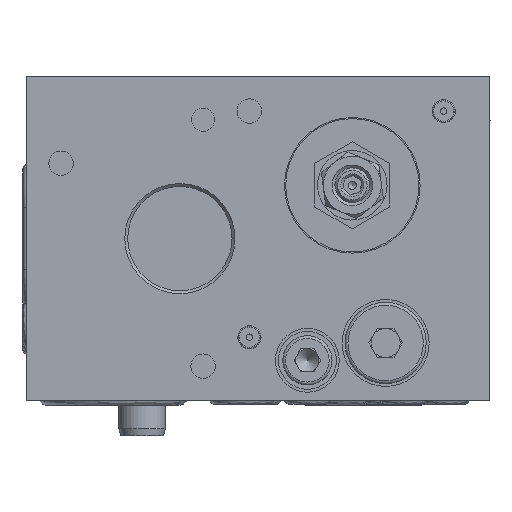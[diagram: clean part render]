
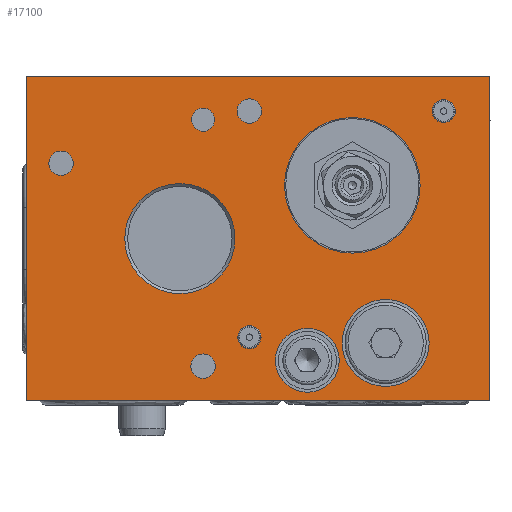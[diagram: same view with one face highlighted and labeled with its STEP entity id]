
A CAD part, left-side view. The second image highlights one B-rep face of the part: STEP entity #17100.
In plain terms, the highlighted planar face has unit normal (-1, 0, 0).
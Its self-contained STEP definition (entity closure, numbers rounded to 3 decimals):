
#145 = VECTOR ( 'NONE', #21074, 1000. ) ;
#528 = CARTESIAN_POINT ( 'NONE',  ( 0., 0., 0. ) ) ;
#545 = CARTESIAN_POINT ( 'NONE',  ( 0., -62., 10. ) ) ;
#640 = LINE ( 'NONE', #528, #12795 ) ;
#978 = CARTESIAN_POINT ( 'NONE',  ( 0., -80., 56. ) ) ;
#1106 = CARTESIAN_POINT ( 'NONE',  ( 0., 0., 56. ) ) ;
#1287 = CARTESIAN_POINT ( 'NONE',  ( 0., -48.5, 12.5 ) ) ;
#1330 = DIRECTION ( 'NONE',  ( 0., 0., -1. ) ) ;
#1402 = FACE_BOUND ( 'NONE', #12193, .T. ) ;
#1601 = ORIENTED_EDGE ( 'NONE', *, *, #6001, .F. ) ;
#1817 = DIRECTION ( 'NONE',  ( 0., 0., 1. ) ) ;
#1970 = DIRECTION ( 'NONE',  ( 1., 0., 0. ) ) ;
#2127 = VERTEX_POINT ( 'NONE', #10689 ) ;
#2154 = DIRECTION ( 'NONE',  ( 0., 0., 1. ) ) ;
#2182 = DIRECTION ( 'NONE',  ( 1., 0., 0. ) ) ;
#2485 = ORIENTED_EDGE ( 'NONE', *, *, #10477, .F. ) ;
#2597 = CARTESIAN_POINT ( 'NONE',  ( 0., 0., 56. ) ) ;
#2634 = ORIENTED_EDGE ( 'NONE', *, *, #6351, .F. ) ;
#2785 = CARTESIAN_POINT ( 'NONE',  ( 0., -36., 28. ) ) ;
#2894 = AXIS2_PLACEMENT_3D ( 'NONE', #10479, #17168, #2154 ) ;
#2997 = CARTESIAN_POINT ( 'NONE',  ( 0., 0., 56. ) ) ;
#3196 = DIRECTION ( 'NONE',  ( 0., 0., 1. ) ) ;
#3381 = EDGE_LOOP ( 'NONE', ( #5102 ) ) ;
#3425 = EDGE_LOOP ( 'NONE', ( #5179, #1601, #2485, #4714 ) ) ;
#3496 = FACE_BOUND ( 'NONE', #10504, .T. ) ;
#3764 = DIRECTION ( 'NONE',  ( -1., 0., 0. ) ) ;
#3921 = EDGE_CURVE ( 'NONE', #10235, #10235, #17332, .T. ) ;
#4251 = VERTEX_POINT ( 'NONE', #21041 ) ;
#4284 = DIRECTION ( 'NONE',  ( 0., 0., 1. ) ) ;
#4314 = LINE ( 'NONE', #1106, #9926 ) ;
#4444 = VERTEX_POINT ( 'NONE', #2785 ) ;
#4475 = VERTEX_POINT ( 'NONE', #19716 ) ;
#4560 = CARTESIAN_POINT ( 'NONE',  ( 0., -80., 56. ) ) ;
#4595 = EDGE_CURVE ( 'NONE', #9469, #9469, #9305, .T. ) ;
#4714 = ORIENTED_EDGE ( 'NONE', *, *, #15390, .T. ) ;
#4970 = VERTEX_POINT ( 'NONE', #14801 ) ;
#5102 = ORIENTED_EDGE ( 'NONE', *, *, #4595, .F. ) ;
#5170 = DIRECTION ( 'NONE',  ( 0., 0., 1. ) ) ;
#5179 = ORIENTED_EDGE ( 'NONE', *, *, #5889, .T. ) ;
#5463 = CARTESIAN_POINT ( 'NONE',  ( 0., -30.5, 48.5 ) ) ;
#5696 = ORIENTED_EDGE ( 'NONE', *, *, #20600, .F. ) ;
#5768 = VERTEX_POINT ( 'NONE', #5873 ) ;
#5790 = CIRCLE ( 'NONE', #20539, 2. ) ;
#5873 = CARTESIAN_POINT ( 'NONE',  ( 0., -6., 43.1 ) ) ;
#5889 = EDGE_CURVE ( 'NONE', #2127, #19149, #640, .T. ) ;
#5996 = AXIS2_PLACEMENT_3D ( 'NONE', #13997, #2182, #12258 ) ;
#6001 = EDGE_CURVE ( 'NONE', #17620, #19149, #21504, .T. ) ;
#6215 = VERTEX_POINT ( 'NONE', #19628 ) ;
#6351 = EDGE_CURVE ( 'NONE', #4444, #4444, #13164, .T. ) ;
#6683 = EDGE_CURVE ( 'NONE', #4970, #4970, #15696, .T. ) ;
#6927 = VECTOR ( 'NONE', #1330, 1000. ) ;
#7012 = CARTESIAN_POINT ( 'NONE',  ( 0., -38.5, 50. ) ) ;
#7206 = FACE_BOUND ( 'NONE', #3381, .T. ) ;
#7318 = FACE_BOUND ( 'NONE', #7618, .T. ) ;
#7336 = DIRECTION ( 'NONE',  ( 0., -1., 0. ) ) ;
#7357 = DIRECTION ( 'NONE',  ( 0., 0., 1. ) ) ;
#7617 = CARTESIAN_POINT ( 'NONE',  ( 0., -56.25, 37.2 ) ) ;
#7618 = EDGE_LOOP ( 'NONE', ( #17449 ) ) ;
#7705 = CARTESIAN_POINT ( 'NONE',  ( 0., -62., 17.5 ) ) ;
#7760 = VERTEX_POINT ( 'NONE', #1287 ) ;
#7795 = EDGE_LOOP ( 'NONE', ( #2634 ) ) ;
#8237 = CIRCLE ( 'NONE', #20515, 2. ) ;
#8266 = AXIS2_PLACEMENT_3D ( 'NONE', #17186, #13991, #18847 ) ;
#8308 = EDGE_LOOP ( 'NONE', ( #10013 ) ) ;
#8446 = ORIENTED_EDGE ( 'NONE', *, *, #19048, .F. ) ;
#8846 = FACE_OUTER_BOUND ( 'NONE', #3425, .T. ) ;
#9203 = DIRECTION ( 'NONE',  ( -1., 0., 0. ) ) ;
#9305 = CIRCLE ( 'NONE', #21593, 7.5 ) ;
#9469 = VERTEX_POINT ( 'NONE', #7705 ) ;
#9675 = CARTESIAN_POINT ( 'NONE',  ( 0., -48.5, 7. ) ) ;
#9762 = FACE_BOUND ( 'NONE', #17451, .T. ) ;
#9926 = VECTOR ( 'NONE', #21102, 1000. ) ;
#9973 = AXIS2_PLACEMENT_3D ( 'NONE', #11668, #20464, #15262 ) ;
#10013 = ORIENTED_EDGE ( 'NONE', *, *, #13921, .F. ) ;
#10173 = FACE_BOUND ( 'NONE', #8308, .T. ) ;
#10235 = VERTEX_POINT ( 'NONE', #15261 ) ;
#10477 = EDGE_CURVE ( 'NONE', #18289, #17620, #4314, .T. ) ;
#10479 = CARTESIAN_POINT ( 'NONE',  ( 0., -6., 41. ) ) ;
#10504 = EDGE_LOOP ( 'NONE', ( #5696 ) ) ;
#10621 = FACE_BOUND ( 'NONE', #7795, .T. ) ;
#10689 = CARTESIAN_POINT ( 'NONE',  ( 0., 0., 0. ) ) ;
#10707 = CIRCLE ( 'NONE', #12100, 2.1 ) ;
#11295 = DIRECTION ( 'NONE',  ( -1., 0., 0. ) ) ;
#11308 = LINE ( 'NONE', #2997, #6927 ) ;
#11631 = EDGE_CURVE ( 'NONE', #18969, #18969, #14831, .T. ) ;
#11668 = CARTESIAN_POINT ( 'NONE',  ( 0., -30.5, 6. ) ) ;
#11781 = EDGE_LOOP ( 'NONE', ( #20036 ) ) ;
#11941 = DIRECTION ( 'NONE',  ( 0., 1., 0. ) ) ;
#12100 = AXIS2_PLACEMENT_3D ( 'NONE', #7012, #15123, #5170 ) ;
#12193 = EDGE_LOOP ( 'NONE', ( #18160 ) ) ;
#12235 = ORIENTED_EDGE ( 'NONE', *, *, #17517, .F. ) ;
#12258 = DIRECTION ( 'NONE',  ( 0., 1., 0. ) ) ;
#12739 = CARTESIAN_POINT ( 'NONE',  ( 0., -80., 0. ) ) ;
#12795 = VECTOR ( 'NONE', #7336, 1000. ) ;
#12852 = EDGE_CURVE ( 'NONE', #7760, #7760, #19797, .T. ) ;
#12978 = DIRECTION ( 'NONE',  ( 0., 0., 1. ) ) ;
#13164 = CIRCLE ( 'NONE', #8266, 9.5 ) ;
#13921 = EDGE_CURVE ( 'NONE', #6215, #6215, #8237, .T. ) ;
#13991 = DIRECTION ( 'NONE',  ( -1., 0., 0. ) ) ;
#13995 = EDGE_LOOP ( 'NONE', ( #8446 ) ) ;
#13997 = CARTESIAN_POINT ( 'NONE',  ( 0., 0., 56. ) ) ;
#14769 = CIRCLE ( 'NONE', #2894, 2.1 ) ;
#14801 = CARTESIAN_POINT ( 'NONE',  ( 0., -56.25, 48.9 ) ) ;
#14831 = CIRCLE ( 'NONE', #18717, 2. ) ;
#15123 = DIRECTION ( 'NONE',  ( -1., 0., 0. ) ) ;
#15261 = CARTESIAN_POINT ( 'NONE',  ( 0., -30.5, 8.1 ) ) ;
#15262 = DIRECTION ( 'NONE',  ( 0., 0., 1. ) ) ;
#15390 = EDGE_CURVE ( 'NONE', #18289, #2127, #11308, .T. ) ;
#15531 = AXIS2_PLACEMENT_3D ( 'NONE', #9675, #11295, #3196 ) ;
#15696 = CIRCLE ( 'NONE', #20980, 11.7 ) ;
#15761 = CARTESIAN_POINT ( 'NONE',  ( 0., -28.5, 48.5 ) ) ;
#16306 = ORIENTED_EDGE ( 'NONE', *, *, #12852, .F. ) ;
#16436 = FACE_BOUND ( 'NONE', #13995, .T. ) ;
#16732 = DIRECTION ( 'NONE',  ( -1., 0., 0. ) ) ;
#16852 = EDGE_LOOP ( 'NONE', ( #16306 ) ) ;
#16854 = FACE_BOUND ( 'NONE', #16852, .T. ) ;
#16950 = CARTESIAN_POINT ( 'NONE',  ( 0., -72., 50. ) ) ;
#17100 = ADVANCED_FACE ( 'NONE', ( #3496, #10173, #16854, #9762, #16436, #1402, #19064, #7206, #10621, #7318, #8846 ), #17424, .F. ) ;
#17168 = DIRECTION ( 'NONE',  ( -1., 0., 0. ) ) ;
#17186 = CARTESIAN_POINT ( 'NONE',  ( 0., -26.5, 28. ) ) ;
#17332 = CIRCLE ( 'NONE', #9973, 2.1 ) ;
#17424 = PLANE ( 'NONE',  #5996 ) ;
#17449 = ORIENTED_EDGE ( 'NONE', *, *, #6683, .F. ) ;
#17451 = EDGE_LOOP ( 'NONE', ( #12235 ) ) ;
#17517 = EDGE_CURVE ( 'NONE', #5768, #5768, #14769, .T. ) ;
#17602 = DIRECTION ( 'NONE',  ( -1., 0., 0. ) ) ;
#17620 = VERTEX_POINT ( 'NONE', #4560 ) ;
#17773 = CARTESIAN_POINT ( 'NONE',  ( 0., -38.5, 11. ) ) ;
#18160 = ORIENTED_EDGE ( 'NONE', *, *, #3921, .F. ) ;
#18289 = VERTEX_POINT ( 'NONE', #2597 ) ;
#18717 = AXIS2_PLACEMENT_3D ( 'NONE', #5463, #1970, #11941 ) ;
#18847 = DIRECTION ( 'NONE',  ( 0., -1., 0. ) ) ;
#18969 = VERTEX_POINT ( 'NONE', #15761 ) ;
#19048 = EDGE_CURVE ( 'NONE', #4251, #4251, #10707, .T. ) ;
#19064 = FACE_BOUND ( 'NONE', #11781, .T. ) ;
#19149 = VERTEX_POINT ( 'NONE', #12739 ) ;
#19628 = CARTESIAN_POINT ( 'NONE',  ( 0., -72., 52. ) ) ;
#19716 = CARTESIAN_POINT ( 'NONE',  ( 0., -38.5, 13. ) ) ;
#19797 = CIRCLE ( 'NONE', #15531, 5.5 ) ;
#20036 = ORIENTED_EDGE ( 'NONE', *, *, #11631, .T. ) ;
#20464 = DIRECTION ( 'NONE',  ( -1., 0., 0. ) ) ;
#20515 = AXIS2_PLACEMENT_3D ( 'NONE', #16950, #16732, #1817 ) ;
#20539 = AXIS2_PLACEMENT_3D ( 'NONE', #17773, #9203, #4284 ) ;
#20600 = EDGE_CURVE ( 'NONE', #4475, #4475, #5790, .T. ) ;
#20980 = AXIS2_PLACEMENT_3D ( 'NONE', #7617, #17602, #12978 ) ;
#21041 = CARTESIAN_POINT ( 'NONE',  ( 0., -38.5, 52.1 ) ) ;
#21074 = DIRECTION ( 'NONE',  ( 0., 0., -1. ) ) ;
#21102 = DIRECTION ( 'NONE',  ( 0., -1., 0. ) ) ;
#21504 = LINE ( 'NONE', #978, #145 ) ;
#21593 = AXIS2_PLACEMENT_3D ( 'NONE', #545, #3764, #7357 ) ;
